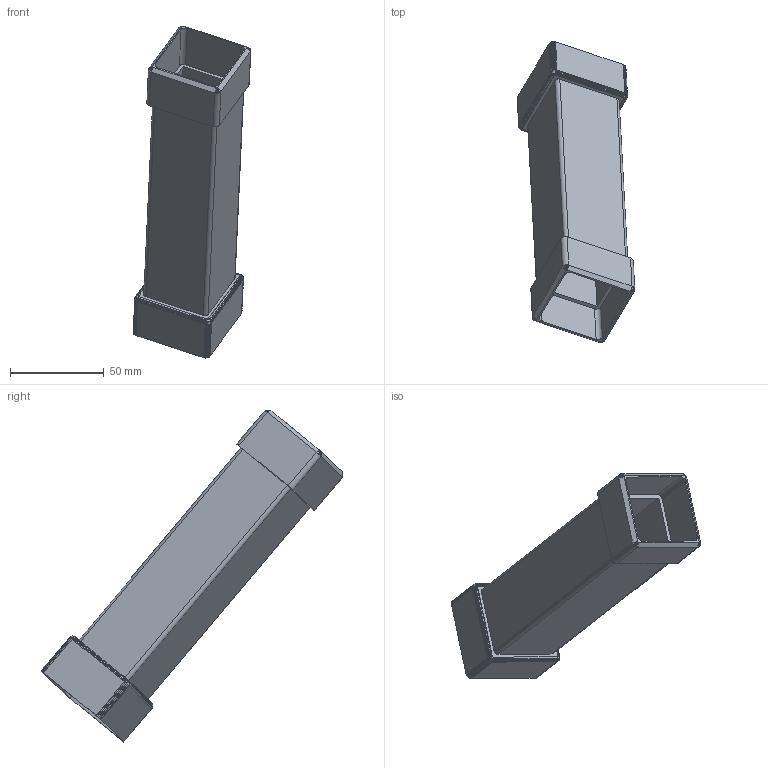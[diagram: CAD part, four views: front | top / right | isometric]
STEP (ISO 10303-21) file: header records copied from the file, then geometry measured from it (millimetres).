
FILE_DESCRIPTION(('Open CASCADE Model'),'2;1');
FILE_NAME('Open CASCADE Shape Model','2026-10-24T22:32:19',('Author'),( 'Open CASCADE'),'Open CASCADE STEP processor 7.9','Open CASCADE 7.9' ,'Unknown');
FILE_SCHEMA(('AUTOMOTIVE_DESIGN { 1 0 10303 214 1 1 1 1 }'));
Length unit declared in the file: millimetre
Products named in the file (1): Open CASCADE STEP translator 7.9 1
Bounding box: 62.56 x 160.26 x 176.62 mm (x, y, z)
Volume: 59246.3 mm3; surface area: 56024.3 mm2
Topology: 1 solids, 1 shells, 239 faces, 602 edges, 368 vertices
Faces by surface type: plane 204, bspline 19, cylinder 16
Entity records: 20021 total; most frequent: CARTESIAN_POINT 8752, DIRECTION 1768, LINE 1316, VECTOR 1316, ORIENTED_EDGE 1202, PCURVE 1202, DEFINITIONAL_REPRESENTATION 1202, EDGE_CURVE 601
